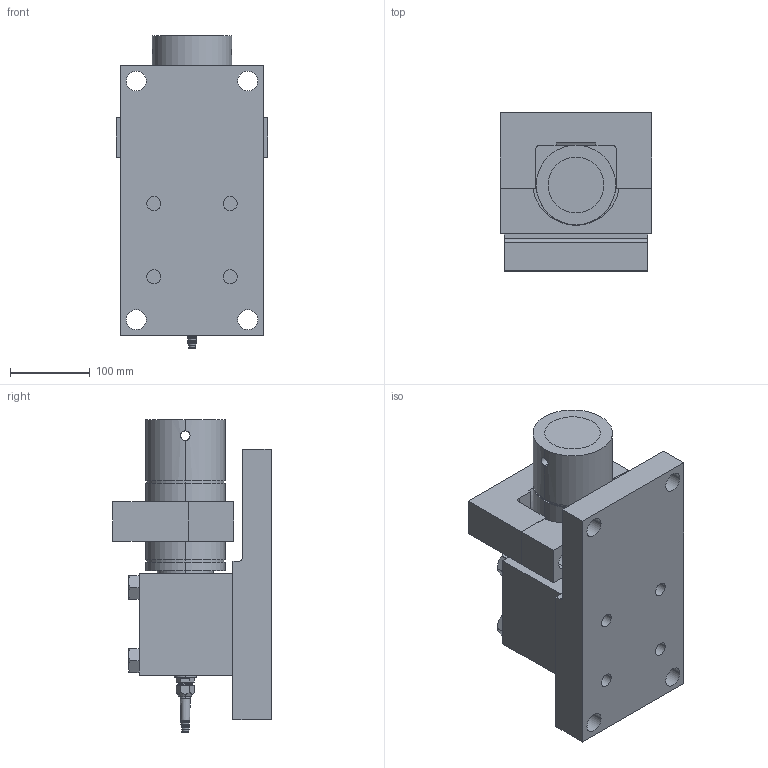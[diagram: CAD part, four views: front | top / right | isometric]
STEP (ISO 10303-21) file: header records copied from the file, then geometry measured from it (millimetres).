
FILE_DESCRIPTION (( 'STEP AP214' ), '1' );
FILE_NAME ('KIS-8 200 kN Module.STEP', '2021-06-30T10:40:25', ( '' ), ( '' ), 'SwSTEP 2.0', 'SolidWorks 2021', '' );
FILE_SCHEMA (( 'AUTOMOTIVE_DESIGN' ));
Length unit declared in the file: millimetre
Products named in the file (10): KIS-8 200 kN Module; 400441r2 OK KIS-8 200 kN; M26x1.5 - Pg9 - 6369829; 400686r1; 400682r2; 400442r0  tippskydd KIS-8 200 kN; 400688r1 Platta KIS-8 200 kN; M20x150; Pg9 - 1009.52 6_2_14; 400684r1
Assembly tree (12 placements, depth 2):
  KIS-8 200 kN Module
    400682r2
    400684r1
    400686r1
    M26x1.5 - Pg9 - 6369829
    Pg9 - 1009.52 6_2_14
    400688r1 Platta KIS-8 200 kN
    M20x150  x4
    400441r2 OK KIS-8 200 kN
    400442r0  tippskydd KIS-8 200 kN
Bounding box: 190 x 199 x 393 mm (x, y, z)
Volume: 6840735.7 mm3; surface area: 704458.6 mm2
Topology: 12 solids, 15 shells, 364 faces, 879 edges, 558 vertices
Faces by surface type: cylinder 148, plane 115, cone 75, bspline 16, torus 10
Entity records: 14412 total; most frequent: CARTESIAN_POINT 6574, DIRECTION 1465, ORIENTED_EDGE 1434, EDGE_CURVE 717, AXIS2_PLACEMENT_3D 595, VERTEX_POINT 456, EDGE_LOOP 359, CIRCLE 301
